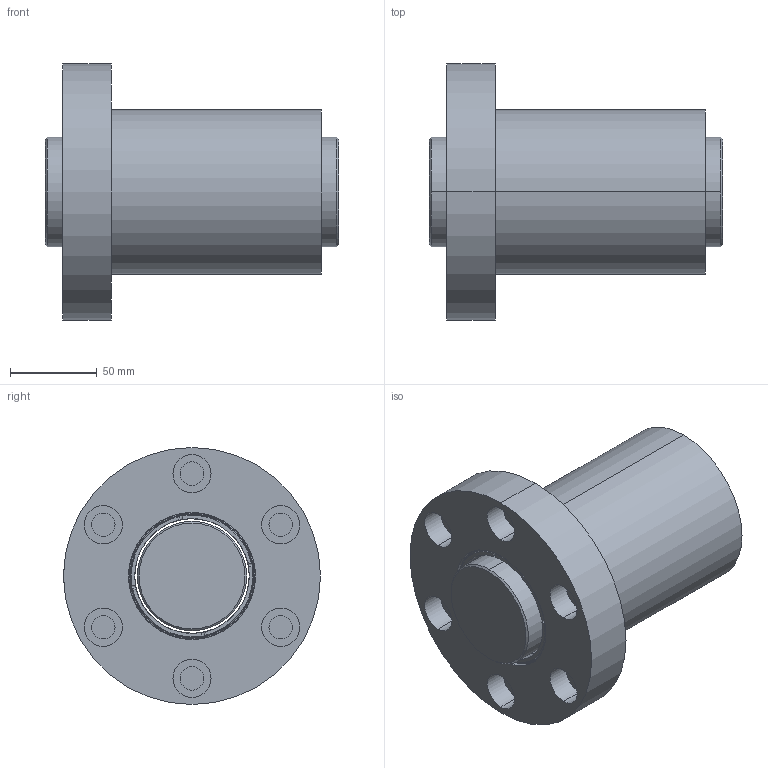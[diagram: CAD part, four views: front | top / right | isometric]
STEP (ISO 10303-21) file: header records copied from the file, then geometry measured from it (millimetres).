
FILE_DESCRIPTION (( 'STEP AP203' ), '1' );
FILE_NAME ('SFZR06320T4N-C.STEP', '2020-06-18T01:04:18', ( '' ), ( '' ), 'SwSTEP 2.0', 'SolidWorks 2013', '' );
FILE_SCHEMA (( 'CONFIG_CONTROL_DESIGN' ));
Length unit declared in the file: millimetre
Products named in the file (1): SFZR06320T4N-C
Bounding box: 169 x 148 x 148 mm (x, y, z)
Volume: 1305449.8 mm3; surface area: 163943.6 mm2
Topology: 2 solids, 2 shells, 120 faces, 266 edges, 170 vertices
Faces by surface type: cylinder 66, plane 32, torus 18, cone 4
Entity records: 3869 total; most frequent: CARTESIAN_POINT 1065, DIRECTION 616, ORIENTED_EDGE 532, AXIS2_PLACEMENT_3D 273, EDGE_CURVE 266, VERTEX_POINT 170, CIRCLE 152, EDGE_LOOP 144
